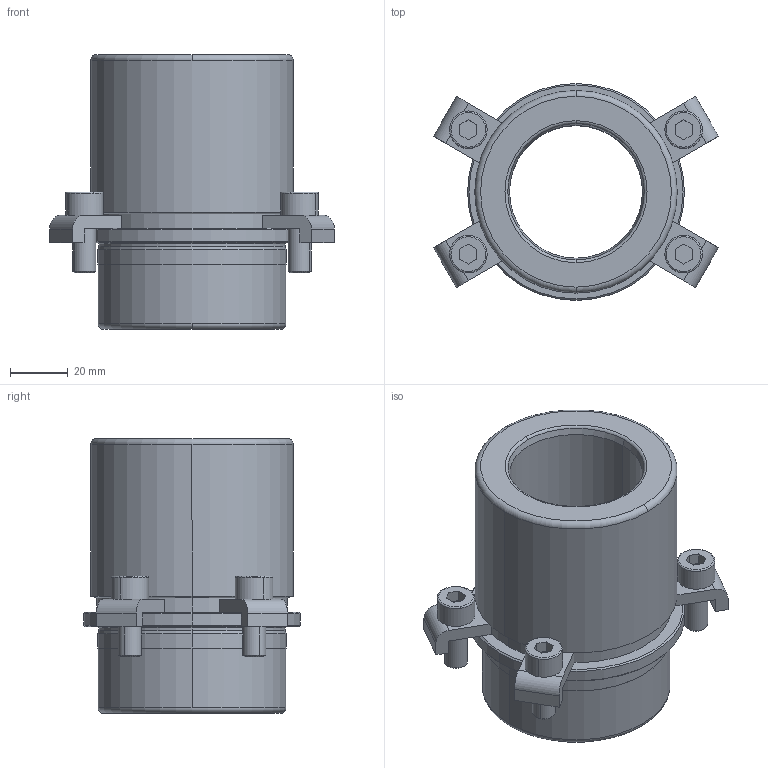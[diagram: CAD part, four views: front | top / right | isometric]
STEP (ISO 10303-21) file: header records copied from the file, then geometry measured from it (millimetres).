
FILE_DESCRIPTION((''),'2;1');
FILE_NAME('B40_038_065.stp','2009-01-05T16:30:59',(''),(''),'Mechanical Desktop 2009','Mechanical Desktop 2009',', , ');
FILE_SCHEMA(('CONFIG_CONTROL_DESIGN'));
Length unit declared in the file: millimetre
Products named in the file (2): Product; blmdl1
Assembly tree (1 placements, depth 2):
  Product
    blmdl1
Bounding box: 98.54 x 75 x 95 mm (x, y, z)
Volume: 204843.3 mm3; surface area: 48673.7 mm2
Topology: 9 solids, 9 shells, 173 faces, 422 edges, 278 vertices
Faces by surface type: plane 73, cylinder 50, cone 22, torus 16, bspline 12
Entity records: 5767 total; most frequent: CARTESIAN_POINT 1403, DIRECTION 966, ORIENTED_EDGE 844, EDGE_CURVE 422, AXIS2_PLACEMENT_3D 381, VERTEX_POINT 278, CIRCLE 218, VECTOR 204
